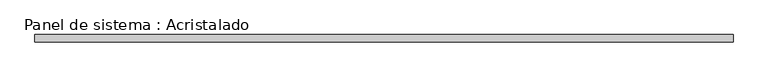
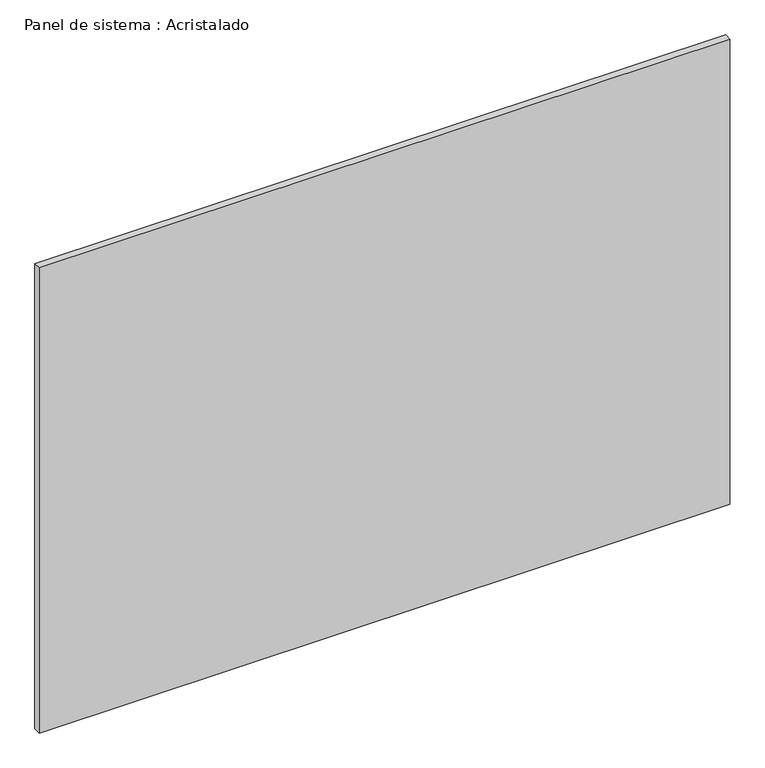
"""IFC4 building model written with IfcOpenShell, lengths in millimetres: plate geometry, Panel de sistema : Acristalado."""

from ifc_helpers import new_model, si_unit, origin, origin_with_axes, place, context, project, spatial, polyline, outline, extrude, source, transform, mapped, element, save


def panel_de_sistema_acristalado_ff3ce504(model_context):
    return source(origin(), model_context, "Body", "SweptSolid", [
        extrude(outline(polyline([(955.0, -10.0), (-955.0, -10.0), (-955.0, 10.0), (955.0, 10.0), (955.0, -10.0)])), origin_with_axes(), (0.0, 0.0, 1.0), 1360.0),
    ])


if __name__ == "__main__":
    model = new_model("IFC4")
    model_context = context("Model", 3, world=origin())
    ifc_project = project(units=[si_unit("LENGTHUNIT", "METRE", prefix="MILLI")], contexts=[model_context])
    site = spatial("IfcSite", under=ifc_project)
    building = spatial("IfcBuilding", under=site)
    placement = place(None, origin())
    panel_de_sistema_acristalado_shape = panel_de_sistema_acristalado_ff3ce504(model_context)
    element("IfcPlate", 1, ObjectType="Panel de sistema : Acristalado", at=placement, inside=building, context=model_context, shape_type="MappedRepresentation", body=[
        mapped(panel_de_sistema_acristalado_shape, transform((0.0, 0.0, 0.0), x_axis=(1.0, 0.0, 0.0), y_axis=(0.0, 1.0, 0.0), z_axis=(0.0, 0.0, 1.0))),
    ])
    save(model, "model.ifc")
